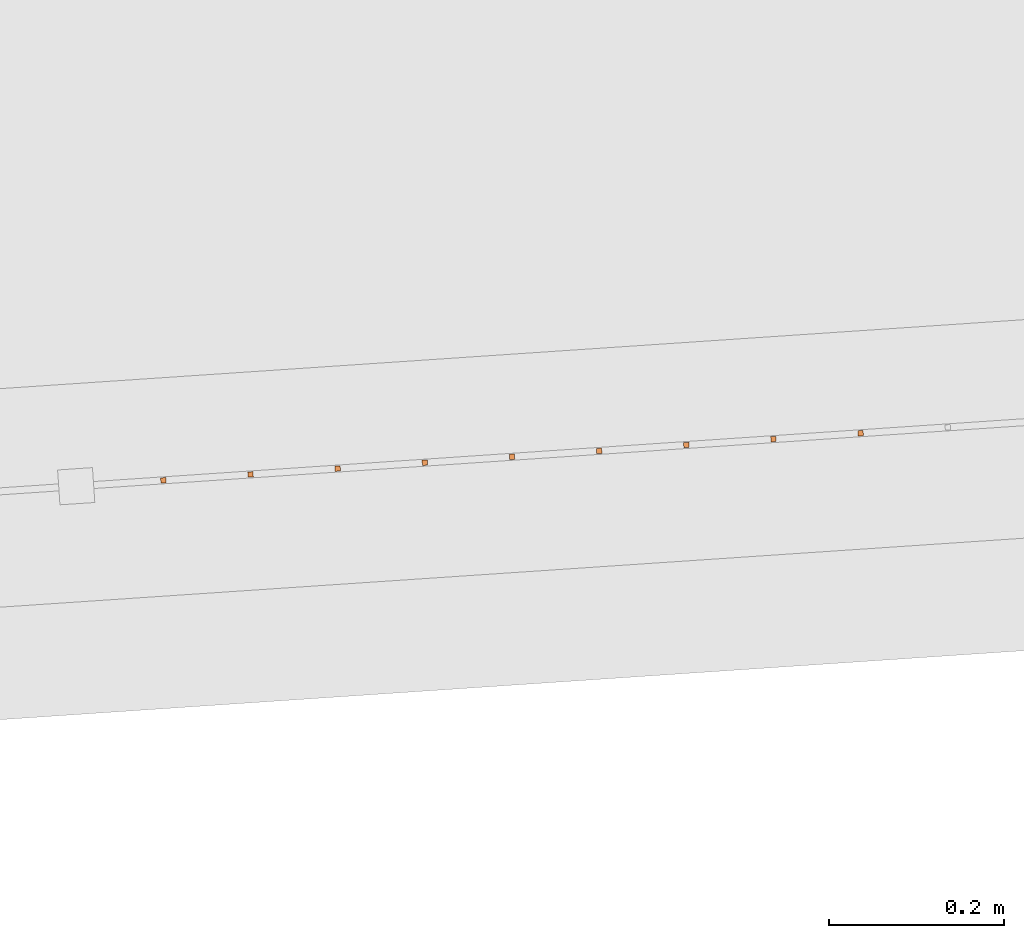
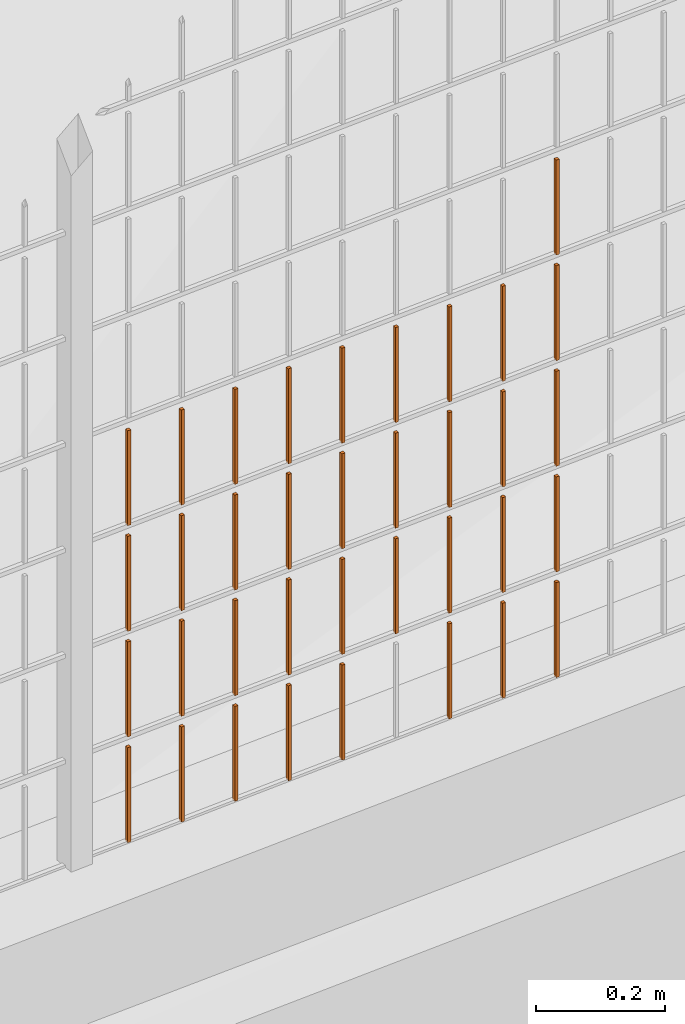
# One storey, part 68 of 1809: 36 proxies, 1 element without a shape of its own.
"""IFC2X3 building model written with IfcOpenShell, lengths in millimetres."""

from ifc_helpers import new_model, entity, si_unit, converted_unit, derived_unit, money_unit, direction, frame, origin_with_axes, place, context, subcontext, project, spatial, faceted_brep, source, transform, mapped, material, type_object, element, aggregate, save


model = new_model("IFC2X3")

# Units and contexts
model_context = context("Model", 3, precision=0.01, world=origin_with_axes(), true_north=direction((0.0, 1.0)))
body_context = subcontext(model_context, "Body", "Model", "MODEL_VIEW")
ifc_project = project(units=[si_unit("LENGTHUNIT", "METRE", prefix="MILLI"), si_unit("AREAUNIT", "SQUARE_METRE"), si_unit("VOLUMEUNIT", "CUBIC_METRE"), converted_unit("PLANEANGLEUNIT", "DEGREE", entity("IfcPlaneAngleMeasure", 0.0174532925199), si_unit("PLANEANGLEUNIT", "RADIAN"), dimensions=[0, 0, 0, 0, 0, 0, 0]), si_unit("SOLIDANGLEUNIT", "STERADIAN"), money_unit("EUR"), converted_unit("TIMEUNIT", "Year", entity("IfcTimeMeasure", 31556926.0), si_unit("TIMEUNIT", "SECOND"), dimensions=[0, 0, 1, 0, 0, 0, 0]), si_unit("MASSUNIT", "GRAM", prefix="KILO"), si_unit("THERMODYNAMICTEMPERATUREUNIT", "DEGREE_CELSIUS"), si_unit("LUMINOUSINTENSITYUNIT", "LUMEN"), si_unit("ENERGYUNIT", "JOULE", prefix="MEGA"), derived_unit("THERMALCONDUCTANCEUNIT", [(si_unit("POWERUNIT", "WATT"), 1), (si_unit("LENGTHUNIT", "METRE"), -1), (si_unit("THERMODYNAMICTEMPERATUREUNIT", "KELVIN"), -1)]), derived_unit("SPECIFICHEATCAPACITYUNIT", [(si_unit("ENERGYUNIT", "JOULE"), 1), (si_unit("MASSUNIT", "GRAM", prefix="KILO"), -1), (si_unit("THERMODYNAMICTEMPERATUREUNIT", "KELVIN"), -1)]), derived_unit("MASSDENSITYUNIT", [(si_unit("MASSUNIT", "GRAM", prefix="KILO"), 1), (si_unit("VOLUMEUNIT", "CUBIC_METRE"), -1)])], contexts=[model_context])

# Site, building, storey
site_placement = place(None, origin_with_axes())
site = spatial("IfcSite", under=ifc_project, at=site_placement, Name="Politse- ja Piirivalveameti ning Päästeameti ühishoone", CompositionType="ELEMENT")
building_placement = place(site_placement, origin_with_axes())
building = spatial("IfcBuilding", under=site, at=building_placement, Name="Politse- ja Piirivalveameti ning Päästeameti ühishoone", CompositionType="ELEMENT")
storey_placement = place(building_placement, origin_with_axes())
storey = spatial("IfcBuildingStorey", under=building, at=storey_placement, Name="Esimene korrus", CompositionType="ELEMENT", Elevation=0.0)

# Proxies
building_element_proxy_type_1 = type_object("IfcBuildingElementProxyType", Name="Railing Type", PredefinedType="NOTDEFINED")
proxy_1_placement = place(storey_placement, frame((89252.001212, -29183.4766571, 203.661247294), z_axis=(0.0, 0.0, 1.0), x_axis=(1.0, 0.0, 0.0)))
proxy_1 = element("IfcBuildingElementProxy", 1, at=proxy_1_placement, inside=storey, type_object=building_element_proxy_type_1, Name="PIIRDEAED")
ifc_material = material(Name="ET-03_Raud")
building_element_proxy_type_2 = type_object("IfcBuildingElementProxyType", Name="IfcBuildingElementProxy", PredefinedType="NOTDEFINED")
shared_shape_1 = source(origin_with_axes(), body_context, "Body", "Brep", [
    faceted_brep([(3.0, 3.0, -0.000752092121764), (-3.0, 3.0, -0.000752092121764), (-3.0, 3.0, 179.99926046), (3.0, 3.0, 179.99926046), (3.0, -3.0, 0.000752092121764), (-3.0, -3.0, 0.000752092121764), (-3.0, -3.0, 180.000764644), (3.0, -3.0, 180.000764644)], [[[0, 1, 2, 3]], [[0, 4, 5, 1]], [[1, 5, 6, 2]], [[3, 2, 6, 7]], [[4, 0, 3, 7]], [[5, 4, 7, 6]]]),
])
proxy_2_placement = place(proxy_1_placement, frame((-106184.730112, -24470.152554, 200.553494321), z_axis=(0.0, 0.0, 1.0), x_axis=(1.0, 0.0, 0.0)))
proxy_2 = element("IfcBuildingElementProxy", 2, at=proxy_2_placement, type_object=building_element_proxy_type_2, material=ifc_material, Name="BALUSTER - 001", context=body_context, shape_type="MappedRepresentation", body=[
    mapped(shared_shape_1, transform((0.0, 0.0, 0.0), x_axis=(-0.0673926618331, 0.997726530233, 0.0), y_axis=(-0.997726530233, -0.0673926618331, 0.0), z_axis=(0.0, 0.0, 1.0))),
])
shared_shape_2 = source(origin_with_axes(), body_context, "Body", "Brep", [
    faceted_brep([(3.0, 3.0, -0.000752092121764), (-3.0, 3.0, -0.000752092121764), (-3.0, 3.0, 179.99926046), (3.0, 3.0, 179.99926046), (3.0, -3.0, 0.000752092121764), (-3.0, -3.0, 0.000752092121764), (-3.0, -3.0, 180.000764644), (3.0, -3.0, 180.000764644)], [[[0, 1, 2, 3]], [[0, 4, 5, 1]], [[1, 5, 6, 2]], [[3, 2, 6, 7]], [[4, 0, 3, 7]], [[5, 4, 7, 6]]]),
])
proxy_3_placement = place(proxy_1_placement, frame((-106184.730112, -24470.152554, 600.553494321), z_axis=(0.0, 0.0, 1.0), x_axis=(1.0, 0.0, 0.0)))
proxy_3 = element("IfcBuildingElementProxy", 3, at=proxy_3_placement, type_object=building_element_proxy_type_2, material=ifc_material, Name="BALUSTER - 001", context=body_context, shape_type="MappedRepresentation", body=[
    mapped(shared_shape_2, transform((0.0, 0.0, 0.0), x_axis=(-0.0673926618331, 0.997726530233, 0.0), y_axis=(-0.997726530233, -0.0673926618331, 0.0), z_axis=(0.0, 0.0, 1.0))),
])
shared_shape_3 = source(origin_with_axes(), body_context, "Body", "Brep", [
    faceted_brep([(3.0, 3.0, -0.000752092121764), (-3.0, 3.0, -0.000752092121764), (-3.0, 3.0, 179.99926046), (3.0, 3.0, 179.99926046), (3.0, -3.0, 0.000752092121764), (-3.0, -3.0, 0.000752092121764), (-3.0, -3.0, 180.000764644), (3.0, -3.0, 180.000764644)], [[[0, 1, 2, 3]], [[0, 4, 5, 1]], [[1, 5, 6, 2]], [[3, 2, 6, 7]], [[4, 0, 3, 7]], [[5, 4, 7, 6]]]),
])
proxy_4_placement = place(proxy_1_placement, frame((-106184.730112, -24470.152554, 400.553494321), z_axis=(0.0, 0.0, 1.0), x_axis=(1.0, 0.0, 0.0)))
proxy_4 = element("IfcBuildingElementProxy", 4, at=proxy_4_placement, type_object=building_element_proxy_type_2, material=ifc_material, Name="BALUSTER - 001", context=body_context, shape_type="MappedRepresentation", body=[
    mapped(shared_shape_3, transform((0.0, 0.0, 0.0), x_axis=(-0.0673926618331, 0.997726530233, 0.0), y_axis=(-0.997726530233, -0.0673926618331, 0.0), z_axis=(0.0, 0.0, 1.0))),
])
shared_shape_4 = source(origin_with_axes(), body_context, "Body", "Brep", [
    faceted_brep([(3.0, 3.0, -0.000752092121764), (-3.0, 3.0, -0.000752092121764), (-3.0, 3.0, 179.99926046), (3.0, 3.0, 179.99926046), (3.0, -3.0, 0.000752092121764), (-3.0, -3.0, 0.000752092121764), (-3.0, -3.0, 180.000764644), (3.0, -3.0, 180.000764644)], [[[0, 1, 2, 3]], [[0, 4, 5, 1]], [[1, 5, 6, 2]], [[3, 2, 6, 7]], [[4, 0, 3, 7]], [[5, 4, 7, 6]]]),
])
proxy_5_placement = place(proxy_1_placement, frame((-106184.730112, -24470.152554, 800.553494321), z_axis=(0.0, 0.0, 1.0), x_axis=(1.0, 0.0, 0.0)))
proxy_5 = element("IfcBuildingElementProxy", 5, at=proxy_5_placement, type_object=building_element_proxy_type_2, material=ifc_material, Name="BALUSTER - 001", context=body_context, shape_type="MappedRepresentation", body=[
    mapped(shared_shape_4, transform((0.0, 0.0, 0.0), x_axis=(-0.0673926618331, 0.997726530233, 0.0), y_axis=(-0.997726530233, -0.0673926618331, 0.0), z_axis=(0.0, 0.0, 1.0))),
])
shared_shape_5 = source(origin_with_axes(), body_context, "Body", "Brep", [
    faceted_brep([(3.0, 3.0, -0.000752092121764), (-3.0, 3.0, -0.000752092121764), (-3.0, 3.0, 179.99926046), (3.0, 3.0, 179.99926046), (3.0, -3.0, 0.000752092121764), (-3.0, -3.0, 0.000752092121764), (-3.0, -3.0, 180.000764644), (3.0, -3.0, 180.000764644)], [[[0, 1, 2, 3]], [[0, 4, 5, 1]], [[1, 5, 6, 2]], [[3, 2, 6, 7]], [[4, 0, 3, 7]], [[5, 4, 7, 6]]]),
])
proxy_6_placement = place(proxy_1_placement, frame((-106583.820724, -24497.1096187, 0.453215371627), z_axis=(0.0, 0.0, 1.0), x_axis=(1.0, 0.0, 0.0)))
proxy_6 = element("IfcBuildingElementProxy", 6, at=proxy_6_placement, type_object=building_element_proxy_type_2, material=ifc_material, Name="BALUSTER - 001", context=body_context, shape_type="MappedRepresentation", body=[
    mapped(shared_shape_5, transform((0.0, 0.0, 0.0), x_axis=(-0.0673926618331, 0.997726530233, 0.0), y_axis=(-0.997726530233, -0.0673926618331, 0.0), z_axis=(0.0, 0.0, 1.0))),
])
shared_shape_6 = source(origin_with_axes(), body_context, "Body", "Brep", [
    faceted_brep([(3.0, 3.0, -0.000752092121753), (-3.0, 3.0, -0.000752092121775), (-3.0, 3.0, 179.99926046), (3.0, 3.0, 179.99926046), (3.0, -3.0, 0.000752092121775), (-3.0, -3.0, 0.000752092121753), (-3.0, -3.0, 180.000764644), (3.0, -3.0, 180.000764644)], [[[0, 1, 2, 3]], [[0, 4, 5, 1]], [[1, 5, 6, 2]], [[3, 2, 6, 7]], [[4, 0, 3, 7]], [[5, 4, 7, 6]]]),
])
proxy_7_placement = place(proxy_1_placement, frame((-106284.502765, -24476.8918201, 0.528424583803), z_axis=(0.0, 0.0, 1.0), x_axis=(1.0, 0.0, 0.0)))
proxy_7 = element("IfcBuildingElementProxy", 7, at=proxy_7_placement, type_object=building_element_proxy_type_2, material=ifc_material, Name="BALUSTER - 001", context=body_context, shape_type="MappedRepresentation", body=[
    mapped(shared_shape_6, transform((0.0, 0.0, 0.0), x_axis=(-0.0673926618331, 0.997726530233, 0.0), y_axis=(-0.997726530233, -0.0673926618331, 0.0), z_axis=(0.0, 0.0, 1.0))),
])
shared_shape_7 = source(origin_with_axes(), body_context, "Body", "Brep", [
    faceted_brep([(3.0, 3.0, -0.000752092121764), (-3.0, 3.0, -0.000752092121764), (-3.0, 3.0, 179.99926046), (3.0, 3.0, 179.99926046), (3.0, -3.0, 0.000752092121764), (-3.0, -3.0, 0.000752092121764), (-3.0, -3.0, 180.000764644), (3.0, -3.0, 180.000764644)], [[[0, 1, 2, 3]], [[0, 4, 5, 1]], [[1, 5, 6, 2]], [[3, 2, 6, 7]], [[4, 0, 3, 7]], [[5, 4, 7, 6]]]),
])
proxy_8_placement = place(proxy_1_placement, frame((-106883.138683, -24517.3274172, 0.37800615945), z_axis=(0.0, 0.0, 1.0), x_axis=(1.0, 0.0, 0.0)))
proxy_8 = element("IfcBuildingElementProxy", 8, at=proxy_8_placement, type_object=building_element_proxy_type_2, material=ifc_material, Name="BALUSTER - 001", context=body_context, shape_type="MappedRepresentation", body=[
    mapped(shared_shape_7, transform((0.0, 0.0, 0.0), x_axis=(-0.0673926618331, 0.997726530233, 0.0), y_axis=(-0.997726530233, -0.0673926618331, 0.0), z_axis=(0.0, 0.0, 1.0))),
])
shared_shape_8 = source(origin_with_axes(), body_context, "Body", "Brep", [
    faceted_brep([(3.0, 3.0, -0.000752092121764), (-3.0, 3.0, -0.000752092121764), (-3.0, 3.0, 179.99926046), (3.0, 3.0, 179.99926046), (3.0, -3.0, 0.000752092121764), (-3.0, -3.0, 0.000752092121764), (-3.0, -3.0, 180.000764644), (3.0, -3.0, 180.000764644)], [[[0, 1, 2, 3]], [[0, 4, 5, 1]], [[1, 5, 6, 2]], [[3, 2, 6, 7]], [[4, 0, 3, 7]], [[5, 4, 7, 6]]]),
])
proxy_9_placement = place(proxy_1_placement, frame((-106883.138683, -24517.3274172, 200.378006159), z_axis=(0.0, 0.0, 1.0), x_axis=(1.0, 0.0, 0.0)))
proxy_9 = element("IfcBuildingElementProxy", 9, at=proxy_9_placement, type_object=building_element_proxy_type_2, material=ifc_material, Name="BALUSTER - 001", context=body_context, shape_type="MappedRepresentation", body=[
    mapped(shared_shape_8, transform((0.0, 0.0, 0.0), x_axis=(-0.0673926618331, 0.997726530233, 0.0), y_axis=(-0.997726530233, -0.0673926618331, 0.0), z_axis=(0.0, 0.0, 1.0))),
])
proxy_10_placement = place(proxy_1_placement, frame((-106583.820724, -24497.1096187, 600.453215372), z_axis=(0.0, 0.0, 1.0), x_axis=(1.0, 0.0, 0.0)))
proxy_10 = element("IfcBuildingElementProxy", 10, at=proxy_10_placement, type_object=building_element_proxy_type_2, material=ifc_material, Name="BALUSTER - 001", context=body_context, shape_type="MappedRepresentation", body=[
    mapped(shared_shape_8, transform((0.0, 0.0, 0.0), x_axis=(-0.0673926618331, 0.997726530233, 0.0), y_axis=(-0.997726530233, -0.0673926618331, 0.0), z_axis=(0.0, 0.0, 1.0))),
])
proxy_11_placement = place(proxy_1_placement, frame((-106883.138683, -24517.3274172, 600.378006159), z_axis=(0.0, 0.0, 1.0), x_axis=(1.0, 0.0, 0.0)))
proxy_11 = element("IfcBuildingElementProxy", 11, at=proxy_11_placement, type_object=building_element_proxy_type_2, material=ifc_material, Name="BALUSTER - 001", context=body_context, shape_type="MappedRepresentation", body=[
    mapped(shared_shape_8, transform((0.0, 0.0, 0.0), x_axis=(-0.0673926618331, 0.997726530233, 0.0), y_axis=(-0.997726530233, -0.0673926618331, 0.0), z_axis=(0.0, 0.0, 1.0))),
])
shared_shape_9 = source(origin_with_axes(), body_context, "Body", "Brep", [
    faceted_brep([(3.0, 3.0, -0.000752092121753), (-3.0, 3.0, -0.000752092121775), (-3.0, 3.0, 179.99926046), (3.0, 3.0, 179.99926046), (3.0, -3.0, 0.000752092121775), (-3.0, -3.0, 0.000752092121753), (-3.0, -3.0, 180.000764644), (3.0, -3.0, 180.000764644)], [[[0, 1, 2, 3]], [[0, 4, 5, 1]], [[1, 5, 6, 2]], [[3, 2, 6, 7]], [[4, 0, 3, 7]], [[5, 4, 7, 6]]]),
])
proxy_12_placement = place(proxy_1_placement, frame((-106284.502765, -24476.8918201, 200.528424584), z_axis=(0.0, 0.0, 1.0), x_axis=(1.0, 0.0, 0.0)))
proxy_12 = element("IfcBuildingElementProxy", 12, at=proxy_12_placement, type_object=building_element_proxy_type_2, material=ifc_material, Name="BALUSTER - 001", context=body_context, shape_type="MappedRepresentation", body=[
    mapped(shared_shape_9, transform((0.0, 0.0, 0.0), x_axis=(-0.0673926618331, 0.997726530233, 0.0), y_axis=(-0.997726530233, -0.0673926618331, 0.0), z_axis=(0.0, 0.0, 1.0))),
])
proxy_13_placement = place(proxy_1_placement, frame((-106982.911336, -24524.0666834, 200.352936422), z_axis=(0.0, 0.0, 1.0), x_axis=(1.0, 0.0, 0.0)))
proxy_13 = element("IfcBuildingElementProxy", 13, at=proxy_13_placement, type_object=building_element_proxy_type_2, material=ifc_material, Name="BALUSTER - 001", context=body_context, shape_type="MappedRepresentation", body=[
    mapped(shared_shape_9, transform((0.0, 0.0, 0.0), x_axis=(-0.0673926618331, 0.997726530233, 0.0), y_axis=(-0.997726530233, -0.0673926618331, 0.0), z_axis=(0.0, 0.0, 1.0))),
])
proxy_14_placement = place(proxy_1_placement, frame((-106284.502765, -24476.8918201, 400.528424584), z_axis=(0.0, 0.0, 1.0), x_axis=(1.0, 0.0, 0.0)))
proxy_14 = element("IfcBuildingElementProxy", 14, at=proxy_14_placement, type_object=building_element_proxy_type_2, material=ifc_material, Name="BALUSTER - 001", context=body_context, shape_type="MappedRepresentation", body=[
    mapped(shared_shape_9, transform((0.0, 0.0, 0.0), x_axis=(-0.0673926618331, 0.997726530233, 0.0), y_axis=(-0.997726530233, -0.0673926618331, 0.0), z_axis=(0.0, 0.0, 1.0))),
])
proxy_15_placement = place(proxy_1_placement, frame((-106982.911336, -24524.0666834, 400.352936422), z_axis=(0.0, 0.0, 1.0), x_axis=(1.0, 0.0, 0.0)))
proxy_15 = element("IfcBuildingElementProxy", 15, at=proxy_15_placement, type_object=building_element_proxy_type_2, material=ifc_material, Name="BALUSTER - 001", context=body_context, shape_type="MappedRepresentation", body=[
    mapped(shared_shape_9, transform((0.0, 0.0, 0.0), x_axis=(-0.0673926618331, 0.997726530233, 0.0), y_axis=(-0.997726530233, -0.0673926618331, 0.0), z_axis=(0.0, 0.0, 1.0))),
])
shared_shape_10 = source(origin_with_axes(), body_context, "Body", "Brep", [
    faceted_brep([(3.0, 3.0, -0.000752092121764), (-3.0, 3.0, -0.000752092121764), (-3.0, 3.0, 179.99926046), (3.0, 3.0, 179.99926046), (3.0, -3.0, 0.000752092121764), (-3.0, -3.0, 0.000752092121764), (-3.0, -3.0, 180.000764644), (3.0, -3.0, 180.000764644)], [[[0, 1, 2, 3]], [[0, 4, 5, 1]], [[1, 5, 6, 2]], [[3, 2, 6, 7]], [[4, 0, 3, 7]], [[5, 4, 7, 6]]]),
])
proxy_16_placement = place(proxy_1_placement, frame((-106783.36603, -24510.5881511, 400.403075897), z_axis=(0.0, 0.0, 1.0), x_axis=(1.0, 0.0, 0.0)))
proxy_16 = element("IfcBuildingElementProxy", 16, at=proxy_16_placement, type_object=building_element_proxy_type_2, material=ifc_material, Name="BALUSTER - 001", context=body_context, shape_type="MappedRepresentation", body=[
    mapped(shared_shape_10, transform((0.0, 0.0, 0.0), x_axis=(-0.0673926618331, 0.997726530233, 0.0), y_axis=(-0.997726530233, -0.0673926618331, 0.0), z_axis=(0.0, 0.0, 1.0))),
])
proxy_17_placement = place(proxy_1_placement, frame((-106783.36603, -24510.5881511, 600.403075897), z_axis=(0.0, 0.0, 1.0), x_axis=(1.0, 0.0, 0.0)))
proxy_17 = element("IfcBuildingElementProxy", 17, at=proxy_17_placement, type_object=building_element_proxy_type_2, material=ifc_material, Name="BALUSTER - 001", context=body_context, shape_type="MappedRepresentation", body=[
    mapped(shared_shape_10, transform((0.0, 0.0, 0.0), x_axis=(-0.0673926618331, 0.997726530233, 0.0), y_axis=(-0.997726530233, -0.0673926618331, 0.0), z_axis=(0.0, 0.0, 1.0))),
])
shared_shape_11 = source(origin_with_axes(), body_context, "Body", "Brep", [
    faceted_brep([(3.0, 3.0, -0.000752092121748), (-3.0, 3.0, -0.00075209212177), (-3.0, 3.0, 179.99926046), (3.0, 3.0, 179.99926046), (3.0, -3.0, 0.00075209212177), (-3.0, -3.0, 0.000752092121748), (-3.0, -3.0, 180.000764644), (3.0, -3.0, 180.000764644)], [[[0, 1, 2, 3]], [[0, 4, 5, 1]], [[1, 5, 6, 2]], [[3, 2, 6, 7]], [[4, 0, 3, 7]], [[5, 4, 7, 6]]]),
])
proxy_18_placement = place(proxy_1_placement, frame((-106683.593377, -24503.8488849, 400.428145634), z_axis=(0.0, 0.0, 1.0), x_axis=(1.0, 0.0, 0.0)))
proxy_18 = element("IfcBuildingElementProxy", 18, at=proxy_18_placement, type_object=building_element_proxy_type_2, material=ifc_material, Name="BALUSTER - 001", context=body_context, shape_type="MappedRepresentation", body=[
    mapped(shared_shape_11, transform((0.0, 0.0, 0.0), x_axis=(-0.0673926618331, 0.997726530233, 0.0), y_axis=(-0.997726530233, -0.0673926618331, 0.0), z_axis=(0.0, 0.0, 1.0))),
])
proxy_19_placement = place(proxy_1_placement, frame((-106683.593377, -24503.8488849, 600.428145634), z_axis=(0.0, 0.0, 1.0), x_axis=(1.0, 0.0, 0.0)))
proxy_19 = element("IfcBuildingElementProxy", 19, at=proxy_19_placement, type_object=building_element_proxy_type_2, material=ifc_material, Name="BALUSTER - 001", context=body_context, shape_type="MappedRepresentation", body=[
    mapped(shared_shape_11, transform((0.0, 0.0, 0.0), x_axis=(-0.0673926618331, 0.997726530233, 0.0), y_axis=(-0.997726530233, -0.0673926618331, 0.0), z_axis=(0.0, 0.0, 1.0))),
])
shared_shape_12 = source(origin_with_axes(), body_context, "Body", "Brep", [
    faceted_brep([(3.0, 3.0, -0.000752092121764), (-3.0, 3.0, -0.000752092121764), (-3.0, 3.0, 179.99926046), (3.0, 3.0, 179.99926046), (3.0, -3.0, 0.000752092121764), (-3.0, -3.0, 0.000752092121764), (-3.0, -3.0, 180.000764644), (3.0, -3.0, 180.000764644)], [[[0, 1, 2, 3]], [[0, 4, 5, 1]], [[1, 5, 6, 2]], [[3, 2, 6, 7]], [[4, 0, 3, 7]], [[5, 4, 7, 6]]]),
])
proxy_20_placement = place(proxy_1_placement, frame((-106583.820724, -24497.1096187, 400.453215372), z_axis=(0.0, 0.0, 1.0), x_axis=(1.0, 0.0, 0.0)))
proxy_20 = element("IfcBuildingElementProxy", 20, at=proxy_20_placement, type_object=building_element_proxy_type_2, material=ifc_material, Name="BALUSTER - 001", context=body_context, shape_type="MappedRepresentation", body=[
    mapped(shared_shape_12, transform((0.0, 0.0, 0.0), x_axis=(-0.0673926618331, 0.997726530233, 0.0), y_axis=(-0.997726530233, -0.0673926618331, 0.0), z_axis=(0.0, 0.0, 1.0))),
])
proxy_21_placement = place(proxy_1_placement, frame((-106883.138683, -24517.3274172, 400.378006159), z_axis=(0.0, 0.0, 1.0), x_axis=(1.0, 0.0, 0.0)))
proxy_21 = element("IfcBuildingElementProxy", 21, at=proxy_21_placement, type_object=building_element_proxy_type_2, material=ifc_material, Name="BALUSTER - 001", context=body_context, shape_type="MappedRepresentation", body=[
    mapped(shared_shape_12, transform((0.0, 0.0, 0.0), x_axis=(-0.0673926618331, 0.997726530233, 0.0), y_axis=(-0.997726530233, -0.0673926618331, 0.0), z_axis=(0.0, 0.0, 1.0))),
])
shared_shape_13 = source(origin_with_axes(), body_context, "Body", "Brep", [
    faceted_brep([(3.0, 3.0, -0.000752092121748), (-3.0, 3.0, -0.00075209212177), (-3.0, 3.0, 179.99926046), (3.0, 3.0, 179.99926046), (3.0, -3.0, 0.00075209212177), (-3.0, -3.0, 0.000752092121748), (-3.0, -3.0, 180.000764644), (3.0, -3.0, 180.000764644)], [[[0, 1, 2, 3]], [[0, 4, 5, 1]], [[1, 5, 6, 2]], [[3, 2, 6, 7]], [[4, 0, 3, 7]], [[5, 4, 7, 6]]]),
])
proxy_22_placement = place(proxy_1_placement, frame((-106683.593377, -24503.8488849, 0.428145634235), z_axis=(0.0, 0.0, 1.0), x_axis=(1.0, 0.0, 0.0)))
proxy_22 = element("IfcBuildingElementProxy", 22, at=proxy_22_placement, type_object=building_element_proxy_type_2, material=ifc_material, Name="BALUSTER - 001", context=body_context, shape_type="MappedRepresentation", body=[
    mapped(shared_shape_13, transform((0.0, 0.0, 0.0), x_axis=(-0.0673926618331, 0.997726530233, 0.0), y_axis=(-0.997726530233, -0.0673926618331, 0.0), z_axis=(0.0, 0.0, 1.0))),
])
shared_shape_14 = source(origin_with_axes(), body_context, "Body", "Brep", [
    faceted_brep([(3.0, 3.0, -0.000752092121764), (-3.0, 3.0, -0.000752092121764), (-3.0, 3.0, 179.99926046), (3.0, 3.0, 179.99926046), (3.0, -3.0, 0.000752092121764), (-3.0, -3.0, 0.000752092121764), (-3.0, -3.0, 180.000764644), (3.0, -3.0, 180.000764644)], [[[0, 1, 2, 3]], [[0, 4, 5, 1]], [[1, 5, 6, 2]], [[3, 2, 6, 7]], [[4, 0, 3, 7]], [[5, 4, 7, 6]]]),
])
proxy_23_placement = place(proxy_1_placement, frame((-106783.36603, -24510.5881511, 200.403075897), z_axis=(0.0, 0.0, 1.0), x_axis=(1.0, 0.0, 0.0)))
proxy_23 = element("IfcBuildingElementProxy", 23, at=proxy_23_placement, type_object=building_element_proxy_type_2, material=ifc_material, Name="BALUSTER - 001", context=body_context, shape_type="MappedRepresentation", body=[
    mapped(shared_shape_14, transform((0.0, 0.0, 0.0), x_axis=(-0.0673926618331, 0.997726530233, 0.0), y_axis=(-0.997726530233, -0.0673926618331, 0.0), z_axis=(0.0, 0.0, 1.0))),
])
shared_shape_15 = source(origin_with_axes(), body_context, "Body", "Brep", [
    faceted_brep([(3.0, 3.0, -0.000752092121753), (-3.0, 3.0, -0.000752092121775), (-3.0, 3.0, 179.99926046), (3.0, 3.0, 179.99926046), (3.0, -3.0, 0.000752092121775), (-3.0, -3.0, 0.000752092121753), (-3.0, -3.0, 180.000764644), (3.0, -3.0, 180.000764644)], [[[0, 1, 2, 3]], [[0, 4, 5, 1]], [[1, 5, 6, 2]], [[3, 2, 6, 7]], [[4, 0, 3, 7]], [[5, 4, 7, 6]]]),
])
proxy_24_placement = place(proxy_1_placement, frame((-106982.911336, -24524.0666834, 0.352936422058), z_axis=(0.0, 0.0, 1.0), x_axis=(1.0, 0.0, 0.0)))
proxy_24 = element("IfcBuildingElementProxy", 24, at=proxy_24_placement, type_object=building_element_proxy_type_2, material=ifc_material, Name="BALUSTER - 001", context=body_context, shape_type="MappedRepresentation", body=[
    mapped(shared_shape_15, transform((0.0, 0.0, 0.0), x_axis=(-0.0673926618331, 0.997726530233, 0.0), y_axis=(-0.997726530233, -0.0673926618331, 0.0), z_axis=(0.0, 0.0, 1.0))),
])
shared_shape_16 = source(origin_with_axes(), body_context, "Body", "Brep", [
    faceted_brep([(3.0, 3.0, -0.000752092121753), (-3.0, 3.0, -0.000752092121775), (-3.0, 3.0, 179.99926046), (3.0, 3.0, 179.99926046), (3.0, -3.0, 0.000752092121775), (-3.0, -3.0, 0.000752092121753), (-3.0, -3.0, 180.000764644), (3.0, -3.0, 180.000764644)], [[[0, 1, 2, 3]], [[0, 4, 5, 1]], [[1, 5, 6, 2]], [[3, 2, 6, 7]], [[4, 0, 3, 7]], [[5, 4, 7, 6]]]),
])
proxy_25_placement = place(proxy_1_placement, frame((-106384.275418, -24483.6310863, 0.503354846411), z_axis=(0.0, 0.0, 1.0), x_axis=(1.0, 0.0, 0.0)))
proxy_25 = element("IfcBuildingElementProxy", 25, at=proxy_25_placement, type_object=building_element_proxy_type_2, material=ifc_material, Name="BALUSTER - 001", context=body_context, shape_type="MappedRepresentation", body=[
    mapped(shared_shape_16, transform((0.0, 0.0, 0.0), x_axis=(-0.0673926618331, 0.997726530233, 0.0), y_axis=(-0.997726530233, -0.0673926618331, 0.0), z_axis=(0.0, 0.0, 1.0))),
])
shared_shape_17 = source(origin_with_axes(), body_context, "Body", "Brep", [
    faceted_brep([(3.0, 3.0, -0.000752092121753), (-3.0, 3.0, -0.000752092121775), (-3.0, 3.0, 179.99926046), (3.0, 3.0, 179.99926046), (3.0, -3.0, 0.000752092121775), (-3.0, -3.0, 0.000752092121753), (-3.0, -3.0, 180.000764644), (3.0, -3.0, 180.000764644)], [[[0, 1, 2, 3]], [[0, 4, 5, 1]], [[1, 5, 6, 2]], [[3, 2, 6, 7]], [[4, 0, 3, 7]], [[5, 4, 7, 6]]]),
])
proxy_26_placement = place(proxy_1_placement, frame((-106384.275418, -24483.6310863, 200.503354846), z_axis=(0.0, 0.0, 1.0), x_axis=(1.0, 0.0, 0.0)))
proxy_26 = element("IfcBuildingElementProxy", 26, at=proxy_26_placement, type_object=building_element_proxy_type_2, material=ifc_material, Name="BALUSTER - 001", context=body_context, shape_type="MappedRepresentation", body=[
    mapped(shared_shape_17, transform((0.0, 0.0, 0.0), x_axis=(-0.0673926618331, 0.997726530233, 0.0), y_axis=(-0.997726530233, -0.0673926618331, 0.0), z_axis=(0.0, 0.0, 1.0))),
])
shared_shape_18 = source(origin_with_axes(), body_context, "Body", "Brep", [
    faceted_brep([(3.0, 3.0, -0.000752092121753), (-3.0, 3.0, -0.000752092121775), (-3.0, 3.0, 179.99926046), (3.0, 3.0, 179.99926046), (3.0, -3.0, 0.000752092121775), (-3.0, -3.0, 0.000752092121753), (-3.0, -3.0, 180.000764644), (3.0, -3.0, 180.000764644)], [[[0, 1, 2, 3]], [[0, 4, 5, 1]], [[1, 5, 6, 2]], [[3, 2, 6, 7]], [[4, 0, 3, 7]], [[5, 4, 7, 6]]]),
])
proxy_27_placement = place(proxy_1_placement, frame((-106384.275418, -24483.6310863, 400.503354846), z_axis=(0.0, 0.0, 1.0), x_axis=(1.0, 0.0, 0.0)))
proxy_27 = element("IfcBuildingElementProxy", 27, at=proxy_27_placement, type_object=building_element_proxy_type_2, material=ifc_material, Name="BALUSTER - 001", context=body_context, shape_type="MappedRepresentation", body=[
    mapped(shared_shape_18, transform((0.0, 0.0, 0.0), x_axis=(-0.0673926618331, 0.997726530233, 0.0), y_axis=(-0.997726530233, -0.0673926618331, 0.0), z_axis=(0.0, 0.0, 1.0))),
])
proxy_28_placement = place(proxy_1_placement, frame((-106384.275418, -24483.6310863, 600.503354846), z_axis=(0.0, 0.0, 1.0), x_axis=(1.0, 0.0, 0.0)))
proxy_28 = element("IfcBuildingElementProxy", 28, at=proxy_28_placement, type_object=building_element_proxy_type_2, material=ifc_material, Name="BALUSTER - 001", context=body_context, shape_type="MappedRepresentation", body=[
    mapped(shared_shape_18, transform((0.0, 0.0, 0.0), x_axis=(-0.0673926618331, 0.997726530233, 0.0), y_axis=(-0.997726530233, -0.0673926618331, 0.0), z_axis=(0.0, 0.0, 1.0))),
])
shared_shape_19 = source(origin_with_axes(), body_context, "Body", "Brep", [
    faceted_brep([(3.0, 3.0, -0.000752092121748), (-3.0, 3.0, -0.00075209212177), (-3.0, 3.0, 179.99926046), (3.0, 3.0, 179.99926046), (3.0, -3.0, 0.00075209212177), (-3.0, -3.0, 0.000752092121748), (-3.0, -3.0, 180.000764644), (3.0, -3.0, 180.000764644)], [[[0, 1, 2, 3]], [[0, 4, 5, 1]], [[1, 5, 6, 2]], [[3, 2, 6, 7]], [[4, 0, 3, 7]], [[5, 4, 7, 6]]]),
])
proxy_29_placement = place(proxy_1_placement, frame((-106484.048071, -24490.3703525, 200.478285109), z_axis=(0.0, 0.0, 1.0), x_axis=(1.0, 0.0, 0.0)))
proxy_29 = element("IfcBuildingElementProxy", 29, at=proxy_29_placement, type_object=building_element_proxy_type_2, material=ifc_material, Name="BALUSTER - 001", context=body_context, shape_type="MappedRepresentation", body=[
    mapped(shared_shape_19, transform((0.0, 0.0, 0.0), x_axis=(-0.0673926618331, 0.997726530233, 0.0), y_axis=(-0.997726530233, -0.0673926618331, 0.0), z_axis=(0.0, 0.0, 1.0))),
])
proxy_30_placement = place(proxy_1_placement, frame((-106484.048071, -24490.3703525, 400.478285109), z_axis=(0.0, 0.0, 1.0), x_axis=(1.0, 0.0, 0.0)))
proxy_30 = element("IfcBuildingElementProxy", 30, at=proxy_30_placement, type_object=building_element_proxy_type_2, material=ifc_material, Name="BALUSTER - 001", context=body_context, shape_type="MappedRepresentation", body=[
    mapped(shared_shape_19, transform((0.0, 0.0, 0.0), x_axis=(-0.0673926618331, 0.997726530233, 0.0), y_axis=(-0.997726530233, -0.0673926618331, 0.0), z_axis=(0.0, 0.0, 1.0))),
])
proxy_31_placement = place(proxy_1_placement, frame((-106484.048071, -24490.3703525, 600.478285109), z_axis=(0.0, 0.0, 1.0), x_axis=(1.0, 0.0, 0.0)))
proxy_31 = element("IfcBuildingElementProxy", 31, at=proxy_31_placement, type_object=building_element_proxy_type_2, material=ifc_material, Name="BALUSTER - 001", context=body_context, shape_type="MappedRepresentation", body=[
    mapped(shared_shape_19, transform((0.0, 0.0, 0.0), x_axis=(-0.0673926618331, 0.997726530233, 0.0), y_axis=(-0.997726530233, -0.0673926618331, 0.0), z_axis=(0.0, 0.0, 1.0))),
])
shared_shape_20 = source(origin_with_axes(), body_context, "Body", "Brep", [
    faceted_brep([(3.0, 3.0, -0.000752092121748), (-3.0, 3.0, -0.00075209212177), (-3.0, 3.0, 179.99926046), (3.0, 3.0, 179.99926046), (3.0, -3.0, 0.00075209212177), (-3.0, -3.0, 0.000752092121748), (-3.0, -3.0, 180.000764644), (3.0, -3.0, 180.000764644)], [[[0, 1, 2, 3]], [[0, 4, 5, 1]], [[1, 5, 6, 2]], [[3, 2, 6, 7]], [[4, 0, 3, 7]], [[5, 4, 7, 6]]]),
])
proxy_32_placement = place(proxy_1_placement, frame((-106683.593377, -24503.8488849, 200.428145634), z_axis=(0.0, 0.0, 1.0), x_axis=(1.0, 0.0, 0.0)))
proxy_32 = element("IfcBuildingElementProxy", 32, at=proxy_32_placement, type_object=building_element_proxy_type_2, material=ifc_material, Name="BALUSTER - 001", context=body_context, shape_type="MappedRepresentation", body=[
    mapped(shared_shape_20, transform((0.0, 0.0, 0.0), x_axis=(-0.0673926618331, 0.997726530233, 0.0), y_axis=(-0.997726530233, -0.0673926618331, 0.0), z_axis=(0.0, 0.0, 1.0))),
])
shared_shape_21 = source(origin_with_axes(), body_context, "Body", "Brep", [
    faceted_brep([(3.0, 3.0, -0.000752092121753), (-3.0, 3.0, -0.000752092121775), (-3.0, 3.0, 179.99926046), (3.0, 3.0, 179.99926046), (3.0, -3.0, 0.000752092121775), (-3.0, -3.0, 0.000752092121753), (-3.0, -3.0, 180.000764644), (3.0, -3.0, 180.000764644)], [[[0, 1, 2, 3]], [[0, 4, 5, 1]], [[1, 5, 6, 2]], [[3, 2, 6, 7]], [[4, 0, 3, 7]], [[5, 4, 7, 6]]]),
])
proxy_33_placement = place(proxy_1_placement, frame((-106284.502765, -24476.8918201, 600.528424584), z_axis=(0.0, 0.0, 1.0), x_axis=(1.0, 0.0, 0.0)))
proxy_33 = element("IfcBuildingElementProxy", 33, at=proxy_33_placement, type_object=building_element_proxy_type_2, material=ifc_material, Name="BALUSTER - 001", context=body_context, shape_type="MappedRepresentation", body=[
    mapped(shared_shape_21, transform((0.0, 0.0, 0.0), x_axis=(-0.0673926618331, 0.997726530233, 0.0), y_axis=(-0.997726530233, -0.0673926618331, 0.0), z_axis=(0.0, 0.0, 1.0))),
])
proxy_34_placement = place(proxy_1_placement, frame((-106982.911336, -24524.0666834, 600.352936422), z_axis=(0.0, 0.0, 1.0), x_axis=(1.0, 0.0, 0.0)))
proxy_34 = element("IfcBuildingElementProxy", 34, at=proxy_34_placement, type_object=building_element_proxy_type_2, material=ifc_material, Name="BALUSTER - 001", context=body_context, shape_type="MappedRepresentation", body=[
    mapped(shared_shape_21, transform((0.0, 0.0, 0.0), x_axis=(-0.0673926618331, 0.997726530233, 0.0), y_axis=(-0.997726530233, -0.0673926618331, 0.0), z_axis=(0.0, 0.0, 1.0))),
])
shared_shape_22 = source(origin_with_axes(), body_context, "Body", "Brep", [
    faceted_brep([(3.0, 3.0, -0.000752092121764), (-3.0, 3.0, -0.000752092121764), (-3.0, 3.0, 179.99926046), (3.0, 3.0, 179.99926046), (3.0, -3.0, 0.000752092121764), (-3.0, -3.0, 0.000752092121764), (-3.0, -3.0, 180.000764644), (3.0, -3.0, 180.000764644)], [[[0, 1, 2, 3]], [[0, 4, 5, 1]], [[1, 5, 6, 2]], [[3, 2, 6, 7]], [[4, 0, 3, 7]], [[5, 4, 7, 6]]]),
])
proxy_35_placement = place(proxy_1_placement, frame((-106583.820724, -24497.1096187, 200.453215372), z_axis=(0.0, 0.0, 1.0), x_axis=(1.0, 0.0, 0.0)))
proxy_35 = element("IfcBuildingElementProxy", 35, at=proxy_35_placement, type_object=building_element_proxy_type_2, material=ifc_material, Name="BALUSTER - 001", context=body_context, shape_type="MappedRepresentation", body=[
    mapped(shared_shape_22, transform((0.0, 0.0, 0.0), x_axis=(-0.0673926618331, 0.997726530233, 0.0), y_axis=(-0.997726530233, -0.0673926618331, 0.0), z_axis=(0.0, 0.0, 1.0))),
])
shared_shape_23 = source(origin_with_axes(), body_context, "Body", "Brep", [
    faceted_brep([(3.0, 3.0, -0.000752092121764), (-3.0, 3.0, -0.000752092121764), (-3.0, 3.0, 179.99926046), (3.0, 3.0, 179.99926046), (3.0, -3.0, 0.000752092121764), (-3.0, -3.0, 0.000752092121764), (-3.0, -3.0, 180.000764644), (3.0, -3.0, 180.000764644)], [[[0, 1, 2, 3]], [[0, 4, 5, 1]], [[1, 5, 6, 2]], [[3, 2, 6, 7]], [[4, 0, 3, 7]], [[5, 4, 7, 6]]]),
])
proxy_36_placement = place(proxy_1_placement, frame((-106184.730112, -24470.152554, 0.553494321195), z_axis=(0.0, 0.0, 1.0), x_axis=(1.0, 0.0, 0.0)))
proxy_36 = element("IfcBuildingElementProxy", 36, at=proxy_36_placement, type_object=building_element_proxy_type_2, material=ifc_material, Name="BALUSTER - 001", context=body_context, shape_type="MappedRepresentation", body=[
    mapped(shared_shape_23, transform((0.0, 0.0, 0.0), x_axis=(-0.0673926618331, 0.997726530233, 0.0), y_axis=(-0.997726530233, -0.0673926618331, 0.0), z_axis=(0.0, 0.0, 1.0))),
])
shared_shape_24 = source(origin_with_axes(), body_context, "Body", "Brep", [
    faceted_brep([(3.0, 3.0, -0.000752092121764), (-3.0, 3.0, -0.000752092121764), (-3.0, 3.0, 179.99926046), (3.0, 3.0, 179.99926046), (3.0, -3.0, 0.000752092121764), (-3.0, -3.0, 0.000752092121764), (-3.0, -3.0, 180.000764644), (3.0, -3.0, 180.000764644)], [[[0, 1, 2, 3]], [[0, 4, 5, 1]], [[1, 5, 6, 2]], [[3, 2, 6, 7]], [[4, 0, 3, 7]], [[5, 4, 7, 6]]]),
])
proxy_37_placement = place(proxy_1_placement, frame((-106783.36603, -24510.5881511, 0.403075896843), z_axis=(0.0, 0.0, 1.0), x_axis=(1.0, 0.0, 0.0)))
proxy_37 = element("IfcBuildingElementProxy", 37, at=proxy_37_placement, type_object=building_element_proxy_type_2, material=ifc_material, Name="BALUSTER - 001", context=body_context, shape_type="MappedRepresentation", body=[
    mapped(shared_shape_24, transform((0.0, 0.0, 0.0), x_axis=(-0.0673926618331, 0.997726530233, 0.0), y_axis=(-0.997726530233, -0.0673926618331, 0.0), z_axis=(0.0, 0.0, 1.0))),
])
aggregate(proxy_1, [proxy_36, proxy_7, proxy_25, proxy_6, proxy_22, proxy_37, proxy_8, proxy_24, proxy_2, proxy_12, proxy_26, proxy_29, proxy_35, proxy_32, proxy_23, proxy_9, proxy_13, proxy_4, proxy_14, proxy_27, proxy_30, proxy_20, proxy_18, proxy_16, proxy_21, proxy_15, proxy_3, proxy_33, proxy_28, proxy_31, proxy_10, proxy_19, proxy_17, proxy_11, proxy_34, proxy_5])

save(model, "model.ifc")
